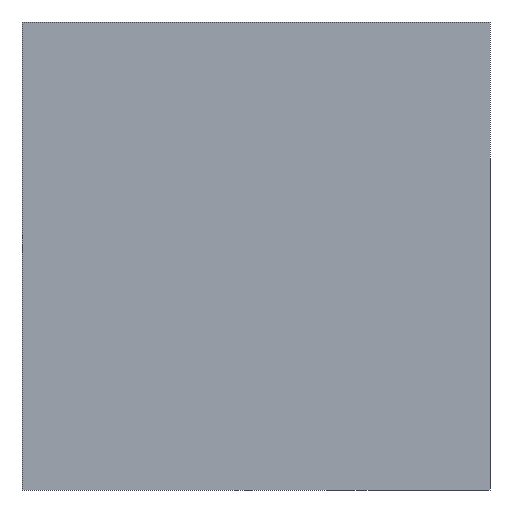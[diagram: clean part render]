
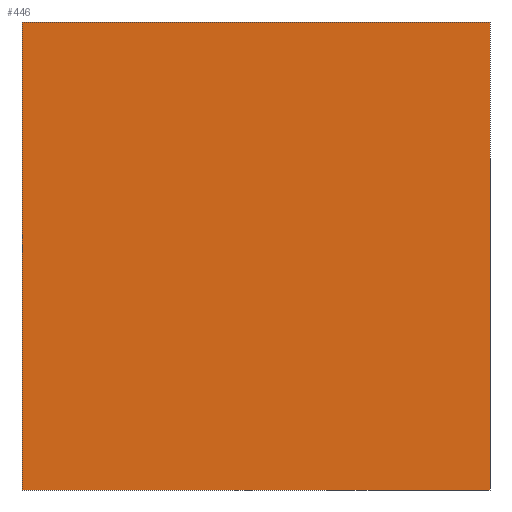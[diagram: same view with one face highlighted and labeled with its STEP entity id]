
A CAD part, front view. The second image highlights one B-rep face of the part: STEP entity #446.
In plain terms, the highlighted planar face has unit normal (0, -1, 0).
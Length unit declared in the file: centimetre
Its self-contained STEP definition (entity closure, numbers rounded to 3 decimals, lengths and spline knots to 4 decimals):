
#5 = DIRECTION ( 'NONE',  ( 0., 0., 1. ) ) ;
#26 = ORIENTED_EDGE ( 'NONE', *, *, #230, .T. ) ;
#50 = LINE ( 'NONE', #329, #279 ) ;
#52 = DIRECTION ( 'NONE',  ( 1., 0., 0. ) ) ;
#62 = CARTESIAN_POINT ( 'NONE',  ( 0., 0., 1000. ) ) ;
#107 = DIRECTION ( 'NONE',  ( 0., 0., -1. ) ) ;
#109 = VERTEX_POINT ( 'NONE', #435 ) ;
#130 = DIRECTION ( 'NONE',  ( 0., 1., 0. ) ) ;
#133 = VECTOR ( 'NONE', #107, 100. ) ;
#134 = CARTESIAN_POINT ( 'NONE',  ( 0., 0., 0. ) ) ;
#136 = LINE ( 'NONE', #134, #513 ) ;
#137 = ORIENTED_EDGE ( 'NONE', *, *, #316, .T. ) ;
#138 = CARTESIAN_POINT ( 'NONE',  ( 1000., 0., 0. ) ) ;
#142 = VECTOR ( 'NONE', #219, 100. ) ;
#183 = VERTEX_POINT ( 'NONE', #138 ) ;
#201 = EDGE_CURVE ( 'NONE', #109, #183, #464, .T. ) ;
#219 = DIRECTION ( 'NONE',  ( 0., 0., -1. ) ) ;
#230 = EDGE_CURVE ( 'NONE', #507, #183, #136, .T. ) ;
#251 = CARTESIAN_POINT ( 'NONE',  ( 0., 0., 1000. ) ) ;
#263 = VERTEX_POINT ( 'NONE', #251 ) ;
#279 = VECTOR ( 'NONE', #536, 100. ) ;
#290 = CARTESIAN_POINT ( 'NONE',  ( 0., 0., 1000. ) ) ;
#299 = LINE ( 'NONE', #62, #142 ) ;
#310 = CARTESIAN_POINT ( 'NONE',  ( 0., 0., 0. ) ) ;
#312 = AXIS2_PLACEMENT_3D ( 'NONE', #290, #130, #5 ) ;
#316 = EDGE_CURVE ( 'NONE', #263, #507, #299, .T. ) ;
#328 = PLANE ( 'NONE',  #312 ) ;
#329 = CARTESIAN_POINT ( 'NONE',  ( 0., 0., 1000. ) ) ;
#364 = ORIENTED_EDGE ( 'NONE', *, *, #201, .F. ) ;
#367 = FACE_OUTER_BOUND ( 'NONE', #392, .T. ) ;
#379 = ORIENTED_EDGE ( 'NONE', *, *, #413, .F. ) ;
#392 = EDGE_LOOP ( 'NONE', ( #26, #364, #379, #137 ) ) ;
#413 = EDGE_CURVE ( 'NONE', #263, #109, #50, .T. ) ;
#414 = CARTESIAN_POINT ( 'NONE',  ( 1000., 0., 1000. ) ) ;
#435 = CARTESIAN_POINT ( 'NONE',  ( 1000., 0., 1000. ) ) ;
#446 = ADVANCED_FACE ( 'NONE', ( #367 ), #328, .F. ) ;
#464 = LINE ( 'NONE', #414, #133 ) ;
#507 = VERTEX_POINT ( 'NONE', #310 ) ;
#513 = VECTOR ( 'NONE', #52, 100. ) ;
#536 = DIRECTION ( 'NONE',  ( 1., 0., 0. ) ) ;
